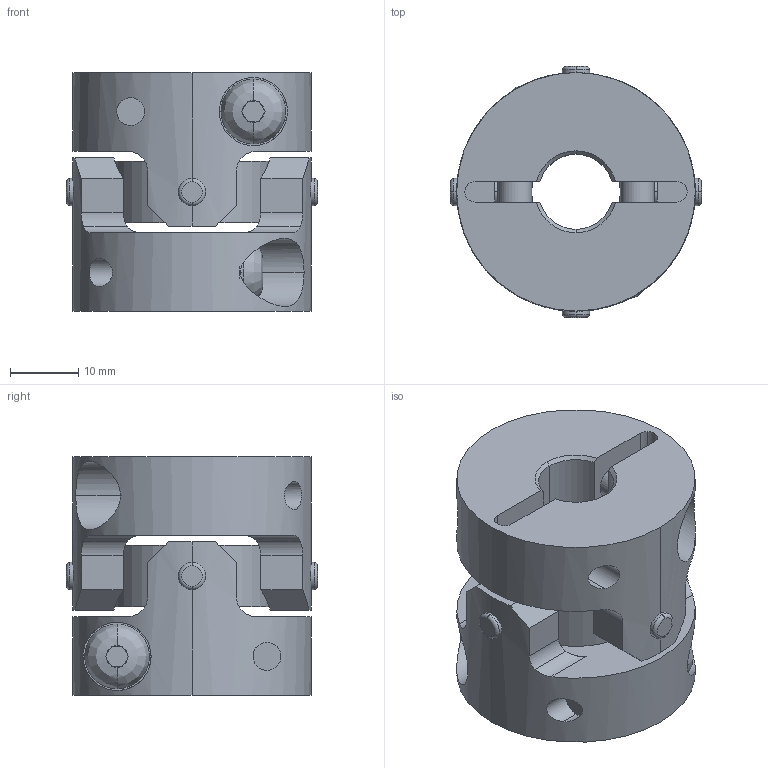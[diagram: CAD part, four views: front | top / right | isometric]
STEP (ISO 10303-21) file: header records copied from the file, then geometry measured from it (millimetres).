
FILE_DESCRIPTION((''),'2;1');
FILE_NAME('UA-35C-11×16.stp','2013-05-22T08:42:51',(''),(''),'AutoCAD STEP 2000i','AutoCAD 2000i',', , ');
FILE_SCHEMA(('CONFIG_CONTROL_DESIGN'));
Length unit declared in the file: millimetre
Products named in the file (7): UA-35C-8×14; 忣兜1; UA-3502-D14; BTN-M5; UA-3502-D08-1; UA-3502-D08; UA35-SEN
Assembly tree (8 placements, depth 3):
  UA-35C-8×14
    忣兜1
    UA-3502-D14
      BTN-M5
    UA-3502-D08-1
      BTN-M5
    UA-3502-D08
      BTN-M5
    UA35-SEN
Bounding box: 36.83 x 36.83 x 35 mm (x, y, z)
Volume: 21756.3 mm3; surface area: 11670.3 mm2
Topology: 1 solids, 1 shells, 250 faces, 646 edges, 408 vertices
Faces by surface type: plane 122, cylinder 96, cone 16, bspline 8, torus 8
Entity records: 9661 total; most frequent: CARTESIAN_POINT 3385, DIRECTION 1292, ORIENTED_EDGE 1292, EDGE_CURVE 646, AXIS2_PLACEMENT_3D 499, VERTEX_POINT 408, VECTOR 294, LINE 294
